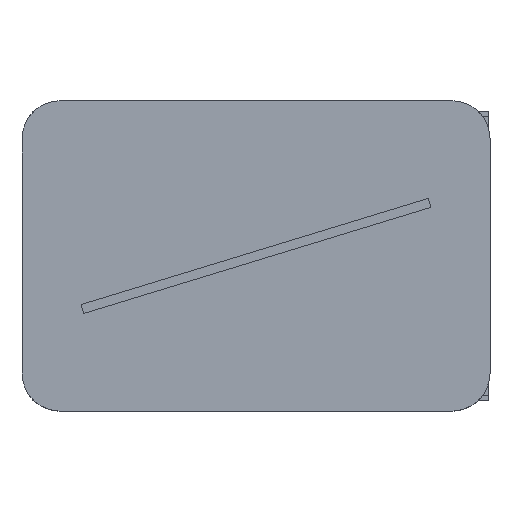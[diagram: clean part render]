
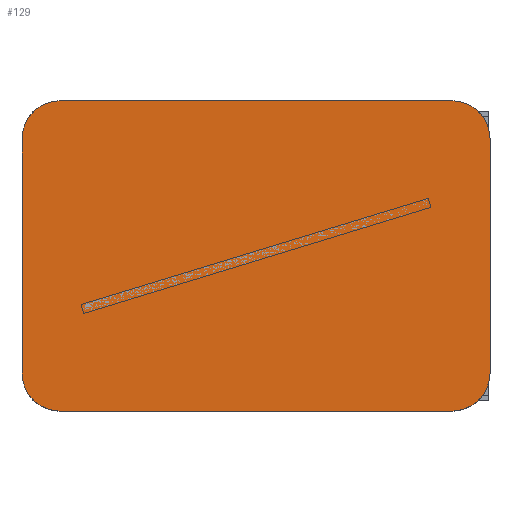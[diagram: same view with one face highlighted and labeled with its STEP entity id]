
A CAD part, top view. The second image highlights one B-rep face of the part: STEP entity #129.
In plain terms, the highlighted planar face has unit normal (0, 0, 1).
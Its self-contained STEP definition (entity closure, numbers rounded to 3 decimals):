
#55 = EDGE_CURVE('',#56,#58,#60,.T.);
#56 = VERTEX_POINT('',#57);
#57 = CARTESIAN_POINT('',(0.,8.,14.));
#58 = VERTEX_POINT('',#59);
#59 = CARTESIAN_POINT('',(8.,0.,14.));
#60 = CIRCLE('',#61,8.);
#61 = AXIS2_PLACEMENT_3D('',#62,#63,#64);
#62 = CARTESIAN_POINT('',(8.,8.,14.));
#63 = DIRECTION('',(0.,0.,1.));
#64 = DIRECTION('',(1.,0.,-0.));
#129 = ADVANCED_FACE('',(#130),#190,.T.);
#130 = FACE_BOUND('',#131,.T.);
#131 = EDGE_LOOP('',(#132,#133,#141,#150,#158,#167,#175,#184));
#132 = ORIENTED_EDGE('',*,*,#55,.T.);
#133 = ORIENTED_EDGE('',*,*,#134,.T.);
#134 = EDGE_CURVE('',#58,#135,#137,.T.);
#135 = VERTEX_POINT('',#136);
#136 = CARTESIAN_POINT('',(90.,0.,14.));
#137 = LINE('',#138,#139);
#138 = CARTESIAN_POINT('',(8.,0.,14.));
#139 = VECTOR('',#140,1.);
#140 = DIRECTION('',(1.,0.,-0.));
#141 = ORIENTED_EDGE('',*,*,#142,.T.);
#142 = EDGE_CURVE('',#135,#143,#145,.T.);
#143 = VERTEX_POINT('',#144);
#144 = CARTESIAN_POINT('',(98.,8.,14.));
#145 = CIRCLE('',#146,8.);
#146 = AXIS2_PLACEMENT_3D('',#147,#148,#149);
#147 = CARTESIAN_POINT('',(90.,8.,14.));
#148 = DIRECTION('',(0.,0.,1.));
#149 = DIRECTION('',(1.,0.,-0.));
#150 = ORIENTED_EDGE('',*,*,#151,.T.);
#151 = EDGE_CURVE('',#143,#152,#154,.T.);
#152 = VERTEX_POINT('',#153);
#153 = CARTESIAN_POINT('',(98.,57.,14.));
#154 = LINE('',#155,#156);
#155 = CARTESIAN_POINT('',(98.,8.,14.));
#156 = VECTOR('',#157,1.);
#157 = DIRECTION('',(-0.,1.,0.));
#158 = ORIENTED_EDGE('',*,*,#159,.T.);
#159 = EDGE_CURVE('',#152,#160,#162,.T.);
#160 = VERTEX_POINT('',#161);
#161 = CARTESIAN_POINT('',(90.,65.,14.));
#162 = CIRCLE('',#163,8.);
#163 = AXIS2_PLACEMENT_3D('',#164,#165,#166);
#164 = CARTESIAN_POINT('',(90.,57.,14.));
#165 = DIRECTION('',(0.,0.,1.));
#166 = DIRECTION('',(1.,0.,-0.));
#167 = ORIENTED_EDGE('',*,*,#168,.F.);
#168 = EDGE_CURVE('',#169,#160,#171,.T.);
#169 = VERTEX_POINT('',#170);
#170 = CARTESIAN_POINT('',(8.,65.,14.));
#171 = LINE('',#172,#173);
#172 = CARTESIAN_POINT('',(8.,65.,14.));
#173 = VECTOR('',#174,1.);
#174 = DIRECTION('',(1.,0.,-0.));
#175 = ORIENTED_EDGE('',*,*,#176,.T.);
#176 = EDGE_CURVE('',#169,#177,#179,.T.);
#177 = VERTEX_POINT('',#178);
#178 = CARTESIAN_POINT('',(0.,57.,14.));
#179 = CIRCLE('',#180,8.);
#180 = AXIS2_PLACEMENT_3D('',#181,#182,#183);
#181 = CARTESIAN_POINT('',(8.,57.,14.));
#182 = DIRECTION('',(0.,0.,1.));
#183 = DIRECTION('',(1.,0.,-0.));
#184 = ORIENTED_EDGE('',*,*,#185,.F.);
#185 = EDGE_CURVE('',#56,#177,#186,.T.);
#186 = LINE('',#187,#188);
#187 = CARTESIAN_POINT('',(0.,8.,14.));
#188 = VECTOR('',#189,1.);
#189 = DIRECTION('',(-0.,1.,0.));
#190 = PLANE('',#191);
#191 = AXIS2_PLACEMENT_3D('',#192,#193,#194);
#192 = CARTESIAN_POINT('',(49.,32.5,14.));
#193 = DIRECTION('',(0.,0.,1.));
#194 = DIRECTION('',(1.,0.,-0.));
